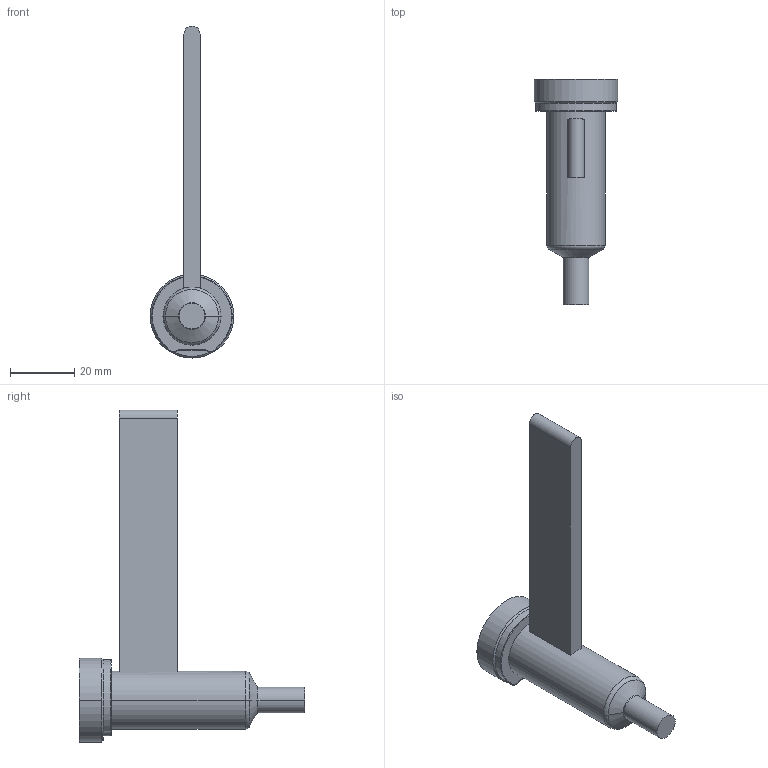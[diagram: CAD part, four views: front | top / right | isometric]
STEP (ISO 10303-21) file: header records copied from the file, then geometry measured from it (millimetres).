
FILE_DESCRIPTION((''),'2;1');
FILE_NAME('EO04_PG-FBE_WR_050_COT','2024-02-19T11:47:11',('sundharh'),(''),'CREO PARAMETRIC BY PTC INC, 2023154','CREO PARAMETRIC BY PTC INC, 2023154','');
FILE_SCHEMA(('CONFIG_CONTROL_DESIGN'));
Length unit declared in the file: millimetre
Products named in the file (1): EO04_PG-FBE_WR_050_COT
Bounding box: 26 x 70 x 103 mm (x, y, z)
Volume: 24340 mm3; surface area: 8324.6 mm2
Topology: 1 solids, 1 shells, 31 faces, 67 edges, 40 vertices
Faces by surface type: cylinder 11, plane 9, torus 7, cone 4
Entity records: 961 total; most frequent: CARTESIAN_POINT 228, DIRECTION 159, ORIENTED_EDGE 134, AXIS2_PLACEMENT_3D 67, EDGE_CURVE 67, VERTEX_POINT 40, CIRCLE 36, EDGE_LOOP 33
